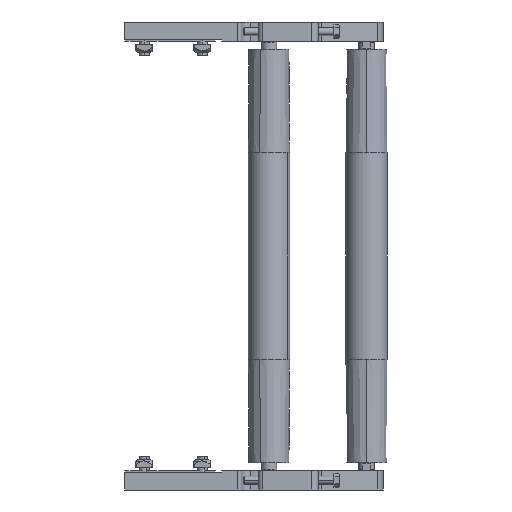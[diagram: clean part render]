
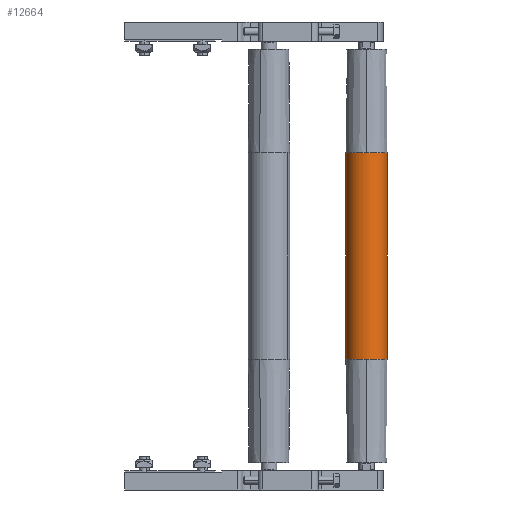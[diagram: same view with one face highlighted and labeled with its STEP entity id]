
A CAD part, front view. The second image highlights one B-rep face of the part: STEP entity #12664.
In plain terms, the highlighted cylindrical face has radius 16 mm (diameter 32 mm), a partial arc.
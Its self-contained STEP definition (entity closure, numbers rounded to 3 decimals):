
#54 = CARTESIAN_POINT ( 'NONE',  ( 16., 0., 80. ) ) ;
#208 = CIRCLE ( 'NONE', #675, 16. ) ;
#359 = DIRECTION ( 'NONE',  ( 0., 0., 1. ) ) ;
#423 = DIRECTION ( 'NONE',  ( 0., -1., 0. ) ) ;
#675 = AXIS2_PLACEMENT_3D ( 'NONE', #8650, #359, #423 ) ;
#1299 = AXIS2_PLACEMENT_3D ( 'NONE', #10106, #12631, #6328 ) ;
#1522 = DIRECTION ( 'NONE',  ( 0., -1., 0. ) ) ;
#1540 = EDGE_LOOP ( 'NONE', ( #7579, #4685, #10530, #3119, #12671, #12900 ) ) ;
#1931 = EDGE_CURVE ( 'NONE', #6227, #6009, #15193, .T. ) ;
#2033 = DIRECTION ( 'NONE',  ( 0., 0., 1. ) ) ;
#2562 = AXIS2_PLACEMENT_3D ( 'NONE', #11502, #8068, #4246 ) ;
#2982 = EDGE_CURVE ( 'NONE', #13101, #8170, #9948, .T. ) ;
#3119 = ORIENTED_EDGE ( 'NONE', *, *, #7457, .T. ) ;
#4246 = DIRECTION ( 'NONE',  ( -1., 0., 0. ) ) ;
#4357 = CARTESIAN_POINT ( 'NONE',  ( 16., 0., -80. ) ) ;
#4618 = VERTEX_POINT ( 'NONE', #14367 ) ;
#4685 = ORIENTED_EDGE ( 'NONE', *, *, #9614, .F. ) ;
#4767 = CYLINDRICAL_SURFACE ( 'NONE', #2562, 16. ) ;
#5868 = DIRECTION ( 'NONE',  ( 0., -1., 0. ) ) ;
#6009 = VERTEX_POINT ( 'NONE', #8158 ) ;
#6227 = VERTEX_POINT ( 'NONE', #12289 ) ;
#6328 = DIRECTION ( 'NONE',  ( 0., -1., 0. ) ) ;
#6546 = CARTESIAN_POINT ( 'NONE',  ( 0., 0., -80. ) ) ;
#6668 = VECTOR ( 'NONE', #13915, 1000. ) ;
#6844 = VECTOR ( 'NONE', #11787, 1000. ) ;
#7457 = EDGE_CURVE ( 'NONE', #4618, #6227, #14544, .T. ) ;
#7579 = ORIENTED_EDGE ( 'NONE', *, *, #2982, .F. ) ;
#7865 = EDGE_CURVE ( 'NONE', #4618, #14900, #11452, .T. ) ;
#7868 = CARTESIAN_POINT ( 'NONE',  ( -16., 0., 160. ) ) ;
#7933 = CARTESIAN_POINT ( 'NONE',  ( 0., -16., 80. ) ) ;
#8068 = DIRECTION ( 'NONE',  ( 0., 0., -1. ) ) ;
#8158 = CARTESIAN_POINT ( 'NONE',  ( 0., -16., -80. ) ) ;
#8170 = VERTEX_POINT ( 'NONE', #4357 ) ;
#8416 = CIRCLE ( 'NONE', #9537, 16. ) ;
#8650 = CARTESIAN_POINT ( 'NONE',  ( 0., 0., 80. ) ) ;
#9373 = AXIS2_PLACEMENT_3D ( 'NONE', #14427, #2033, #5868 ) ;
#9537 = AXIS2_PLACEMENT_3D ( 'NONE', #6546, #11356, #1522 ) ;
#9614 = EDGE_CURVE ( 'NONE', #14900, #13101, #208, .T. ) ;
#9948 = LINE ( 'NONE', #12575, #6668 ) ;
#10106 = CARTESIAN_POINT ( 'NONE',  ( 0., 0., 80. ) ) ;
#10530 = ORIENTED_EDGE ( 'NONE', *, *, #7865, .F. ) ;
#11356 = DIRECTION ( 'NONE',  ( 0., 0., 1. ) ) ;
#11452 = CIRCLE ( 'NONE', #1299, 16. ) ;
#11502 = CARTESIAN_POINT ( 'NONE',  ( 0., 0., 160. ) ) ;
#11787 = DIRECTION ( 'NONE',  ( 0., 0., -1. ) ) ;
#12289 = CARTESIAN_POINT ( 'NONE',  ( -16., 0., -80. ) ) ;
#12575 = CARTESIAN_POINT ( 'NONE',  ( 16., 0., 160. ) ) ;
#12631 = DIRECTION ( 'NONE',  ( 0., 0., 1. ) ) ;
#12664 = ADVANCED_FACE ( 'NONE', ( #14019 ), #4767, .T. ) ;
#12671 = ORIENTED_EDGE ( 'NONE', *, *, #1931, .T. ) ;
#12900 = ORIENTED_EDGE ( 'NONE', *, *, #15218, .T. ) ;
#13101 = VERTEX_POINT ( 'NONE', #54 ) ;
#13915 = DIRECTION ( 'NONE',  ( 0., 0., -1. ) ) ;
#14019 = FACE_OUTER_BOUND ( 'NONE', #1540, .T. ) ;
#14367 = CARTESIAN_POINT ( 'NONE',  ( -16., 0., 80. ) ) ;
#14427 = CARTESIAN_POINT ( 'NONE',  ( 0., 0., -80. ) ) ;
#14544 = LINE ( 'NONE', #7868, #6844 ) ;
#14900 = VERTEX_POINT ( 'NONE', #7933 ) ;
#15193 = CIRCLE ( 'NONE', #9373, 16. ) ;
#15218 = EDGE_CURVE ( 'NONE', #6009, #8170, #8416, .T. ) ;
